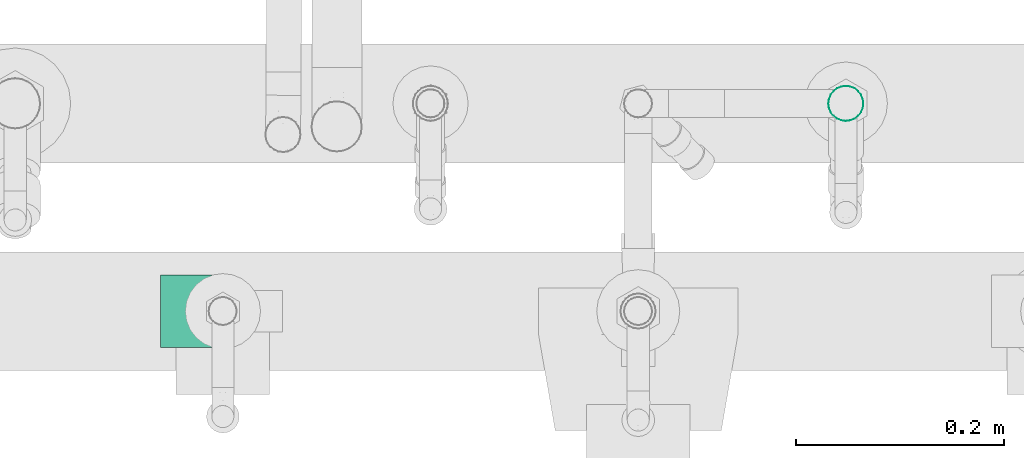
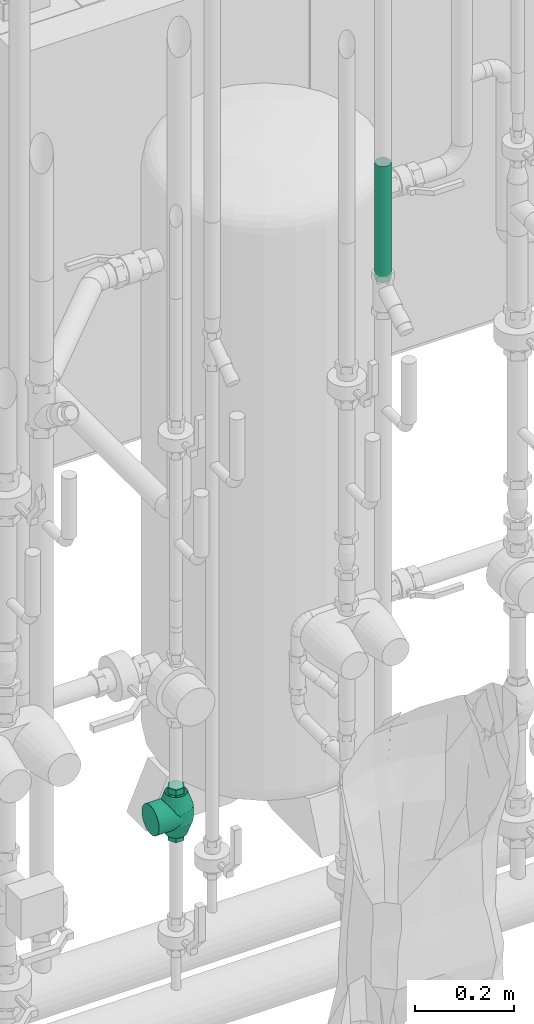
# One storey, part 262 of 374: 1 distribution control element, 1 flow segment.
"""IFC2X3 building model written with IfcOpenShell, lengths in metres."""

from ifc_helpers import new_model, si_unit, direction, origin, place, context, subcontext, project, spatial, open_shell, surface_model, source, transform, mapped, element, save


model = new_model("IFC2X3")

# Units and contexts
model_context = context("Model", 3, precision=1e-05, world=origin(), true_north=direction((-0.4480736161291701, 0.8939966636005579)))
body_context = subcontext(model_context, "Body", "Model", "MODEL_VIEW")
ifc_project = project(units=[si_unit("LENGTHUNIT", "METRE"), si_unit("AREAUNIT", "SQUARE_METRE"), si_unit("VOLUMEUNIT", "CUBIC_METRE"), si_unit("PLANEANGLEUNIT", "RADIAN"), si_unit("THERMODYNAMICTEMPERATUREUNIT", "KELVIN"), si_unit("MASSUNIT", "GRAM", prefix="KILO"), si_unit("TIMEUNIT", "SECOND")], contexts=[model_context])

# Site, building, storey
site_placement = place(None, origin())
site = spatial("IfcSite", under=ifc_project, at=site_placement, Name="Site 1", CompositionType="ELEMENT")
building_placement = place(site_placement, origin())
building = spatial("IfcBuilding", under=site, at=building_placement, Name="Undefined", CompositionType="ELEMENT")
storey_placement = place(building_placement, origin())
storey = spatial("IfcBuildingStorey", under=building, at=storey_placement, Name="Rez de chauss\x8ee", CompositionType="ELEMENT", Elevation=0.0)

# Distribution control element
shared_shape_1 = source(origin(), body_context, "Body", "SurfaceModel", [
    surface_model("IfcFaceBasedSurfaceModel", [(0.0, 0.0, 0.0), (0.018475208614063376, 0.0, 0.0), (0.018475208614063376, 0.014499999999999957, 0.0), (0.0, 0.014499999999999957, 0.0), (-0.009237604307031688, 0.0, 0.016000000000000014), (-0.009237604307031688, 0.014499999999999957, 0.016000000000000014), (0.0, 0.0, 0.03200000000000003), (0.0, 0.014499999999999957, 0.03200000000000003), (0.018475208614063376, 0.0, 0.03200000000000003), (0.018475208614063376, 0.014499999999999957, 0.03200000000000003), (0.027712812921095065, 0.0, 0.016000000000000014), (0.027712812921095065, 0.014499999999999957, 0.016000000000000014), (-0.01409572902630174, 0.014499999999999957, 0.016000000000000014), (-0.013300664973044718, 0.014499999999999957, 0.022039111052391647), (-0.02456979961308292, 0.04816666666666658, 0.025058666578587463), (-0.0257623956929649, 0.04816666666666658, 0.016000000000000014), (-0.010969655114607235, 0.014499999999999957, 0.027666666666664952), (-0.02107328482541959, 0.04816666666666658, 0.03349999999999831), (-0.007261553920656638, 0.014499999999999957, 0.03249915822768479), (-0.015511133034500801, 0.04816666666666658, 0.040748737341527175), (-0.002429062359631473, 0.014499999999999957, 0.03620725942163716), (-0.008262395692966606, 0.04816666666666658, 0.04631088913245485), (0.003198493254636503, 0.014499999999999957, 0.03853826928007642), (0.0001789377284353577, 0.04816666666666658, 0.0498074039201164), (0.009237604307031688, 0.014499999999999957, 0.03933333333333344), (0.009237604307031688, 0.04816666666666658, 0.051000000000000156), (0.015276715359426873, 0.014499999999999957, 0.03853826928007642), (0.018296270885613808, 0.04816666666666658, 0.0498074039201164), (0.02090427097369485, 0.014499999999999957, 0.03620725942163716), (0.026737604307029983, 0.04816666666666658, 0.04631088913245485), (0.025736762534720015, 0.014499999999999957, 0.03249915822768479), (0.03398634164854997, 0.04816666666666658, 0.040748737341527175), (0.02944486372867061, 0.014499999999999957, 0.027666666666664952), (0.03954849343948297, 0.04816666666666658, 0.03349999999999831), (0.031775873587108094, 0.014499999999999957, 0.022039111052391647), (0.0430450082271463, 0.04816666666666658, 0.025058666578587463), (0.032570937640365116, 0.014499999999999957, 0.016000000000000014), (0.04423760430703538, 0.04816666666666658, 0.016000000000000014), (0.031775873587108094, 0.014499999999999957, 0.009960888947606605), (0.0430450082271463, 0.04816666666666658, 0.006941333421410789), (0.02944486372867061, 0.014499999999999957, 0.0043333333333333), (0.03954849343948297, 0.04816666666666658, -0.0015000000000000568), (0.025736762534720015, 0.014499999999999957, -0.0004991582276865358), (0.03398634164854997, 0.04816666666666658, -0.008748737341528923), (0.02090427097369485, 0.014499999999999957, -0.004207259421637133), (0.026737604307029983, 0.04816666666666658, -0.014310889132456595), (0.015276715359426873, 0.014499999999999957, -0.006538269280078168), (0.018296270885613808, 0.04816666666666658, -0.01780740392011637), (0.009237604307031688, 0.014499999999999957, -0.00733333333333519), (0.009237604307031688, 0.04816666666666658, -0.019000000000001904), (0.003198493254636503, 0.014499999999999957, -0.006538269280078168), (0.0001789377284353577, 0.04816666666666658, -0.01780740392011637), (-0.002429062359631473, 0.014499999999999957, -0.004207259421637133), (-0.008262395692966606, 0.04816666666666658, -0.014310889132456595), (-0.007261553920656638, 0.014499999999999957, -0.0004991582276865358), (-0.015511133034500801, 0.04816666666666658, -0.008748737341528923), (-0.010969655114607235, 0.014499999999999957, 0.0043333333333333), (-0.02107328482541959, 0.04816666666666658, -0.0015000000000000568), (-0.013300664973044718, 0.014499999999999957, 0.009960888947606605), (-0.02456979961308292, 0.04816666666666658, 0.006941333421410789), (0.018296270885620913, 0.08183333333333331, 0.0498074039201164), (0.009237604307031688, 0.08183333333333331, 0.051000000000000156), (0.026737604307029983, 0.08183333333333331, 0.04631088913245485), (0.03398634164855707, 0.08183333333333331, 0.04074873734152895), (0.03954849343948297, 0.08183333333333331, 0.033500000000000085), (0.0430450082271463, 0.08183333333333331, 0.025058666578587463), (0.04423760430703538, 0.08183333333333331, 0.016000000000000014), (0.0430450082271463, 0.08183333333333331, 0.006941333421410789), (0.03954849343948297, 0.08183333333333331, -0.0015000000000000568), (0.03398634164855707, 0.08183333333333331, -0.008748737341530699), (0.026737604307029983, 0.08183333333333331, -0.014310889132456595), (0.018296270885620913, 0.08183333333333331, -0.017807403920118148), (0.009237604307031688, 0.08183333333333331, -0.019000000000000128), (0.00017893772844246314, 0.08183333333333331, -0.01780740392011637), (-0.008262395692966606, 0.08183333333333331, -0.014310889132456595), (-0.015511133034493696, 0.08183333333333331, -0.008748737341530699), (-0.02107328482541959, 0.08183333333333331, -0.0015000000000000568), (-0.02456979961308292, 0.08183333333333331, 0.006941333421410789), (-0.0257623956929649, 0.08183333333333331, 0.016000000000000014), (-0.02456979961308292, 0.08183333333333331, 0.025058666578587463), (-0.02107328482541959, 0.08183333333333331, 0.033500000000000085), (-0.015511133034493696, 0.08183333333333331, 0.04074873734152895), (-0.008262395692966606, 0.08183333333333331, 0.04631088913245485), (0.00017893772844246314, 0.08183333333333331, 0.049807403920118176), (-0.013300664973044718, 0.11549999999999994, 0.022039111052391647), (-0.014095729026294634, 0.11549999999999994, 0.016000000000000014), (-0.01096965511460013, 0.11549999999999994, 0.027666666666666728), (-0.007261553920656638, 0.11549999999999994, 0.032499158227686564), (-0.002429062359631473, 0.11549999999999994, 0.03620725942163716), (0.003198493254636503, 0.11549999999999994, 0.0385382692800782), (0.009237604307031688, 0.11549999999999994, 0.03933333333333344), (0.015276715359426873, 0.11549999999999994, 0.03853826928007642), (0.020904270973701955, 0.11549999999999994, 0.03620725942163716), (0.025736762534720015, 0.11549999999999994, 0.032499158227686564), (0.02944486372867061, 0.11549999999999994, 0.027666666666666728), (0.031775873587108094, 0.11549999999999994, 0.022039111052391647), (0.032570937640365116, 0.11549999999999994, 0.016000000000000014), (0.031775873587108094, 0.11549999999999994, 0.009960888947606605), (0.02944486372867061, 0.11549999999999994, 0.0043333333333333), (0.025736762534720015, 0.11549999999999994, -0.0004991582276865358), (0.020904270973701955, 0.11549999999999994, -0.004207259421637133), (0.015276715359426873, 0.11549999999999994, -0.006538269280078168), (0.009237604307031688, 0.11549999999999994, -0.007333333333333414), (0.003198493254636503, 0.11549999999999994, -0.006538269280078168), (-0.002429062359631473, 0.11549999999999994, -0.004207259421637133), (-0.007261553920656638, 0.11549999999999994, -0.0004991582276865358), (-0.01096965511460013, 0.11549999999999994, 0.0043333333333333), (-0.013300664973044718, 0.11549999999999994, 0.009960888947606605), (0.009237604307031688, 0.06499999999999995, 0.051000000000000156), (0.009237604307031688, 0.05594133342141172, 0.0498074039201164), (0.06923760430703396, 0.05594133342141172, 0.0498074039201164), (0.06923760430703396, 0.06499999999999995, 0.051000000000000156), (0.009237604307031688, 0.04749999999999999, 0.04631088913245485), (0.06923760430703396, 0.04749999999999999, 0.04631088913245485), (0.009237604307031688, 0.0402512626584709, 0.04074873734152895), (0.06923760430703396, 0.0402512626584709, 0.04074873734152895), (0.009237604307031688, 0.03468911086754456, 0.033500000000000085), (0.06923760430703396, 0.03468911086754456, 0.033500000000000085), (0.009237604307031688, 0.031192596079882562, 0.025058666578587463), (0.06923760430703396, 0.031192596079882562, 0.025058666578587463), (0.009237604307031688, 0.030000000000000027, 0.016000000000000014), (0.06923760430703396, 0.030000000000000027, 0.016000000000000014), (0.009237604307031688, 0.031192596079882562, 0.006941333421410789), (0.06923760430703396, 0.031192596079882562, 0.006941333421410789), (0.009237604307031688, 0.03468911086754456, -0.0015000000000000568), (0.06923760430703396, 0.03468911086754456, -0.0015000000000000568), (0.009237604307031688, 0.0402512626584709, -0.008748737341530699), (0.06923760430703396, 0.0402512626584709, -0.008748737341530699), (0.009237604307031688, 0.04749999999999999, -0.014310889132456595), (0.06923760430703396, 0.04749999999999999, -0.014310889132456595), (0.009237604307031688, 0.05594133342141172, -0.01780740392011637), (0.06923760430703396, 0.05594133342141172, -0.01780740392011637), (0.009237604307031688, 0.06499999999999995, -0.019000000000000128), (0.06923760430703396, 0.06499999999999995, -0.019000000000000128), (0.009237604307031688, 0.07405866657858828, -0.01780740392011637), (0.06923760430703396, 0.07405866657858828, -0.01780740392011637), (0.009237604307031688, 0.08250000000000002, -0.014310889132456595), (0.06923760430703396, 0.08250000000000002, -0.014310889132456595), (0.009237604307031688, 0.0897487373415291, -0.008748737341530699), (0.06923760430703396, 0.0897487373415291, -0.008748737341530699), (0.009237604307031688, 0.09531088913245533, -0.0015000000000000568), (0.06923760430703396, 0.09531088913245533, -0.0015000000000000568), (0.009237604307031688, 0.09880740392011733, 0.006941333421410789), (0.06923760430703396, 0.09880740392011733, 0.006941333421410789), (0.009237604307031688, 0.09999999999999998, 0.016000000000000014), (0.06923760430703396, 0.09999999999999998, 0.016000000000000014), (0.009237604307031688, 0.09880740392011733, 0.025058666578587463), (0.06923760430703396, 0.09880740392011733, 0.025058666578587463), (0.009237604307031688, 0.09531088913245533, 0.033500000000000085), (0.06923760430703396, 0.09531088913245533, 0.033500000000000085), (0.009237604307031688, 0.0897487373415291, 0.04074873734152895), (0.06923760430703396, 0.0897487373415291, 0.04074873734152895), (0.009237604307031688, 0.08250000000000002, 0.04631088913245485), (0.06923760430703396, 0.08250000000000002, 0.04631088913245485), (0.009237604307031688, 0.07405866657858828, 0.0498074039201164), (0.06923760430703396, 0.07405866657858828, 0.0498074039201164), (0.06923760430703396, 0.06499999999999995, 0.016000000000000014), (0.0, 0.11549999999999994, 0.0), (0.018475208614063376, 0.11549999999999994, 0.0), (0.018475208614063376, 0.13, 0.0), (0.0, 0.1299999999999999, 0.0), (-0.009237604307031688, 0.11549999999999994, 0.016000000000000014), (-0.009237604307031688, 0.13, 0.016000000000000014), (0.0, 0.11549999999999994, 0.03200000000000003), (0.0, 0.13, 0.03200000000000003), (0.018475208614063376, 0.11549999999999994, 0.03200000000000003), (0.018475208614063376, 0.13, 0.03200000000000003), (0.027712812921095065, 0.11549999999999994, 0.016000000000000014), (0.027712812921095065, 0.13, 0.016000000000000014)], [open_shell([[[0, 1, 2, 3]], [[4, 0, 3, 5]], [[6, 4, 5, 7]], [[8, 6, 7, 9]], [[10, 8, 9, 11]], [[1, 10, 11, 2]], [[1, 0, 4]], [[1, 4, 6]], [[1, 6, 8]], [[1, 8, 10]], [[2, 5, 3]], [[2, 7, 5]], [[2, 9, 7]], [[2, 11, 9]], [[12, 13, 14, 15]], [[13, 16, 17, 14]], [[16, 18, 19, 17]], [[18, 20, 21, 19]], [[20, 22, 23, 21]], [[22, 24, 25, 23]], [[24, 26, 27, 25]], [[26, 28, 29, 27]], [[28, 30, 31, 29]], [[30, 32, 33, 31]], [[32, 34, 35, 33]], [[34, 36, 37, 35]], [[36, 38, 39, 37]], [[38, 40, 41, 39]], [[40, 42, 43, 41]], [[42, 44, 45, 43]], [[44, 46, 47, 45]], [[46, 48, 49, 47]], [[48, 50, 51, 49]], [[50, 52, 53, 51]], [[52, 54, 55, 53]], [[54, 56, 57, 55]], [[56, 58, 59, 57]], [[58, 12, 15, 59]], [[25, 27, 60, 61]], [[27, 29, 62, 60]], [[29, 31, 63, 62]], [[31, 33, 64, 63]], [[33, 35, 65, 64]], [[35, 37, 66, 65]], [[37, 39, 67, 66]], [[39, 41, 68, 67]], [[41, 43, 69, 68]], [[43, 45, 70, 69]], [[45, 47, 71, 70]], [[47, 49, 72, 71]], [[49, 51, 73, 72]], [[51, 53, 74, 73]], [[53, 55, 75, 74]], [[55, 57, 76, 75]], [[57, 59, 77, 76]], [[59, 15, 78, 77]], [[15, 14, 79, 78]], [[14, 17, 80, 79]], [[17, 19, 81, 80]], [[19, 21, 82, 81]], [[21, 23, 83, 82]], [[23, 25, 61, 83]], [[78, 79, 84, 85]], [[79, 80, 86, 84]], [[80, 81, 87, 86]], [[81, 82, 88, 87]], [[82, 83, 89, 88]], [[83, 61, 90, 89]], [[61, 60, 91, 90]], [[60, 62, 92, 91]], [[62, 63, 93, 92]], [[63, 64, 94, 93]], [[64, 65, 95, 94]], [[65, 66, 96, 95]], [[66, 67, 97, 96]], [[67, 68, 98, 97]], [[68, 69, 99, 98]], [[69, 70, 100, 99]], [[70, 71, 101, 100]], [[71, 72, 102, 101]], [[72, 73, 103, 102]], [[73, 74, 104, 103]], [[74, 75, 105, 104]], [[75, 76, 106, 105]], [[76, 77, 107, 106]], [[77, 78, 85, 107]], [[108, 109, 110, 111]], [[109, 112, 113, 110]], [[112, 114, 115, 113]], [[114, 116, 117, 115]], [[116, 118, 119, 117]], [[118, 120, 121, 119]], [[120, 122, 123, 121]], [[122, 124, 125, 123]], [[124, 126, 127, 125]], [[126, 128, 129, 127]], [[128, 130, 131, 129]], [[130, 132, 133, 131]], [[132, 134, 135, 133]], [[134, 136, 137, 135]], [[136, 138, 139, 137]], [[138, 140, 141, 139]], [[140, 142, 143, 141]], [[142, 144, 145, 143]], [[144, 146, 147, 145]], [[146, 148, 149, 147]], [[148, 150, 151, 149]], [[150, 152, 153, 151]], [[152, 154, 155, 153]], [[154, 108, 111, 155]], [[156, 155, 111]], [[156, 153, 155]], [[156, 151, 153]], [[156, 149, 151]], [[156, 147, 149]], [[156, 145, 147]], [[156, 143, 145]], [[156, 141, 143]], [[156, 139, 141]], [[156, 137, 139]], [[156, 135, 137]], [[156, 133, 135]], [[156, 131, 133]], [[156, 129, 131]], [[156, 127, 129]], [[156, 125, 127]], [[156, 123, 125]], [[156, 121, 123]], [[156, 119, 121]], [[156, 117, 119]], [[156, 115, 117]], [[156, 113, 115]], [[156, 110, 113]], [[156, 111, 110]], [[157, 158, 159, 160]], [[161, 157, 160, 162]], [[163, 161, 162, 164]], [[165, 163, 164, 166]], [[167, 165, 166, 168]], [[158, 167, 168, 159]], [[158, 157, 161]], [[158, 161, 163]], [[158, 163, 165]], [[158, 165, 167]], [[159, 162, 160]], [[159, 164, 162]], [[159, 166, 164]], [[159, 168, 166]]])]),
])
distribution_control_element_placement = place(storey_placement, origin())
element("IfcDistributionControlElement", 1, at=distribution_control_element_placement, inside=storey, Name="Compteur d'eau", ObjectType="Compteur d'eau", context=body_context, shape_type="MappedRepresentation", body=[
    mapped(shared_shape_1, transform((52.86679962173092, 10.702037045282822, 0.7279629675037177), x_axis=(-1.0, 0.0, 0.0), y_axis=(0.0, 0.0, 1.0), z_axis=(0.0, 1.0, 0.0))),
])

# Flow segment
shared_shape_2 = source(origin(), body_context, "Body", "SurfaceModel", [
    surface_model("IfcFaceBasedSurfaceModel", [(0.0, 0.004398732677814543, 0.0), (0.0, 0.0, 0.0), (0.28775453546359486, 8.8817842e-16, 7.105427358e-15), (0.28775453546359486, 0.004398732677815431, 7.105427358e-15), (0.0, -0.004248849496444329, -0.00113847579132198), (0.28775453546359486, -0.0042488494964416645, -0.001138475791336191), (0.0, -0.008058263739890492, -0.003337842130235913), (0.28775453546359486, -0.008058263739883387, -0.0033378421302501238), (0.0, -0.01116863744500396, -0.0064482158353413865), (0.28775453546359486, -0.011168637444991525, -0.006448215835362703), (0.0, -0.013368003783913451, -0.010257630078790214), (0.28775453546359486, -0.013368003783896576, -0.01025763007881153), (0.0, -0.014506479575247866, -0.014506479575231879), (0.28775453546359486, -0.014506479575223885, -0.0145064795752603), (0.0, -0.01450647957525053, -0.01890521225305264), (0.28775453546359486, -0.014506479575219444, -0.01890521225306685), (0.0, -0.013368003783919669, -0.023154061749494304), (0.28775453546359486, -0.013368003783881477, -0.02315406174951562), (0.0, -0.011168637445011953, -0.02696347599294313), (0.28775453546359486, -0.011168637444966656, -0.026963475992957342), (0.0, -0.008058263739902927, -0.03007384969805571), (0.28775453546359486, -0.008058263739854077, -0.030073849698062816), (0.0, -0.004248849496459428, -0.03227321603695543), (0.28775453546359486, -0.004248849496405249, -0.03227321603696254), (0.0, -1.5099033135e-14, -0.03341169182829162), (0.28775453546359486, 3.8191672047e-14, -0.03341169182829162), (0.0, 0.00439873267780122, -0.03341169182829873), (0.28775453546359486, 0.004398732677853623, -0.03341169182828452), (0.0, 0.008647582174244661, -0.03227321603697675), (0.28775453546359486, 0.008647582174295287, -0.03227321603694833), (0.0, 0.012456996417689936, -0.030073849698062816), (0.28775453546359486, 0.01245699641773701, -0.0300738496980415), (0.0, 0.01556737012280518, -0.026963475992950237), (0.28775453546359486, 0.015567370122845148, -0.02696347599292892), (0.0, 0.017766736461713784, -0.023154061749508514), (0.28775453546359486, 0.017766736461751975, -0.023154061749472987), (0.0, 0.018905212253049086, -0.01890521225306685), (0.28775453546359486, 0.018905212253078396, -0.018905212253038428), (0.0, 0.018905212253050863, -0.01450647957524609), (0.28775453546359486, 0.018905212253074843, -0.014506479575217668), (0.0, 0.01776673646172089, -0.01025763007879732), (0.28775453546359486, 0.0177667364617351, -0.010257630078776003), (0.0, 0.015567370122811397, -0.006448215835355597), (0.28775453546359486, 0.015567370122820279, -0.006448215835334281), (0.0, 0.012456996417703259, -0.0033378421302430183), (0.28775453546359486, 0.0124569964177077, -0.003337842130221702), (0.0, 0.00864758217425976, -0.0011384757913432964), (0.28775453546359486, 0.00864758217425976, -0.0011384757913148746)], [open_shell([[[0, 1, 2, 3]], [[1, 4, 5, 2]], [[4, 6, 7, 5]], [[6, 8, 9, 7]], [[8, 10, 11, 9]], [[10, 12, 13, 11]], [[12, 14, 15, 13]], [[14, 16, 17, 15]], [[16, 18, 19, 17]], [[18, 20, 21, 19]], [[20, 22, 23, 21]], [[22, 24, 25, 23]], [[24, 26, 27, 25]], [[26, 28, 29, 27]], [[28, 30, 31, 29]], [[30, 32, 33, 31]], [[32, 34, 35, 33]], [[34, 36, 37, 35]], [[36, 38, 39, 37]], [[38, 40, 41, 39]], [[40, 42, 43, 41]], [[42, 44, 45, 43]], [[44, 46, 47, 45]], [[46, 0, 3, 47]]])]),
])
flow_segment_placement = place(storey_placement, origin())
element("IfcFlowSegment", 2, at=flow_segment_placement, inside=storey, Name="Tube acier d'après DIN 2448", ObjectType="Tube acier d'après DIN 2448", context=body_context, shape_type="MappedRepresentation", body=[
    mapped(shared_shape_2, transform((53.44128616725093, 10.913675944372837, 1.7817733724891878), x_axis=(0.0, 0.0, 1.0), y_axis=(-0.13052619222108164, 0.9914448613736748, 0.0), z_axis=(-0.9914448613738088, -0.13052619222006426, 0.0))),
])

save(model, "model.ifc")
